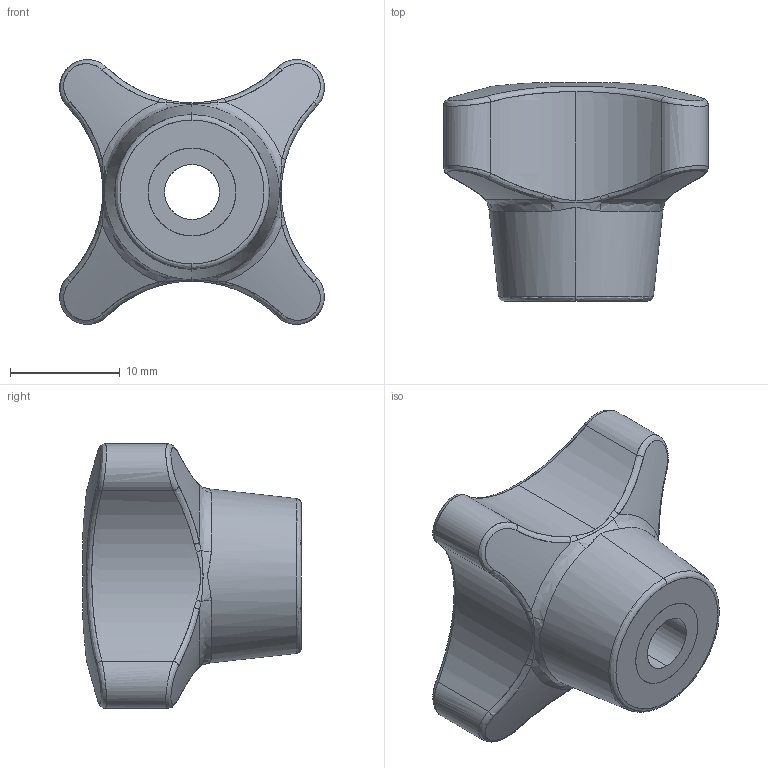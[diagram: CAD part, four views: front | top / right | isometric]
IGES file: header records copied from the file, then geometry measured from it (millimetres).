
Start section: SolidWorks IGES file using analytic representation for surfaces
Global section: file name: C:\Users\Marc\Documents\2 ENGINYERIA\Catalogo 3D\IGS STEP DXF\1121 32 401.IGS; native system: SolidWorks 2010; preprocessor: SolidWorks 2010; author: Marc; date: 101126.164253; units: millimetre
Bounding box: 24.11 x 19.91 x 24.11 mm (x, y, z)
Surface area: 3054.4 mm2 (no closed solid volume)
Topology: 0 solids, 0 shells, 78 faces, 950 edges, 950 vertices
Faces by surface type: bspline 45, revolution 33
